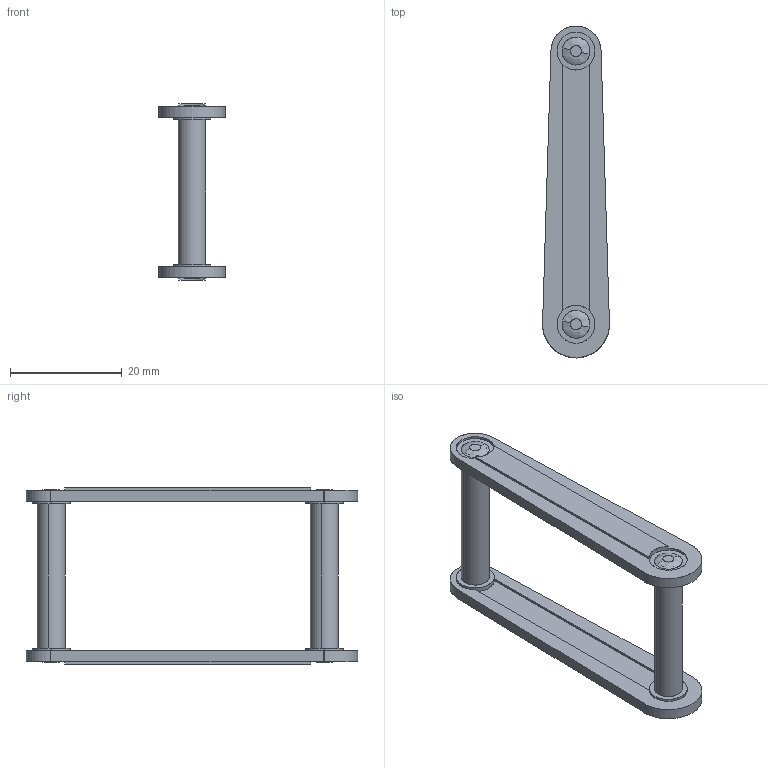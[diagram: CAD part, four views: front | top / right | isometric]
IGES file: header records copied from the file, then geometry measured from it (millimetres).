
Start section: SolidWorks IGES FILE using analytic representation for surfaces
Global section: file name: C:\Documents and Settings\lecoutey\Bureau\GR 2004\Assemblage biellettes 2004.IGS; native system: SolidWorks 2004 by SolidWorks Corporation; preprocessor: Version 5.3; author: lecoutey; date: 050405.100749; units: millimetre
Bounding box: 12 x 59.5 x 31.6 mm (x, y, z)
Surface area: 4221.6 mm2 (no closed solid volume)
Topology: 0 solids, 0 shells, 92 faces, 1856 edges, 1856 vertices
Faces by surface type: bspline 48, revolution 44
